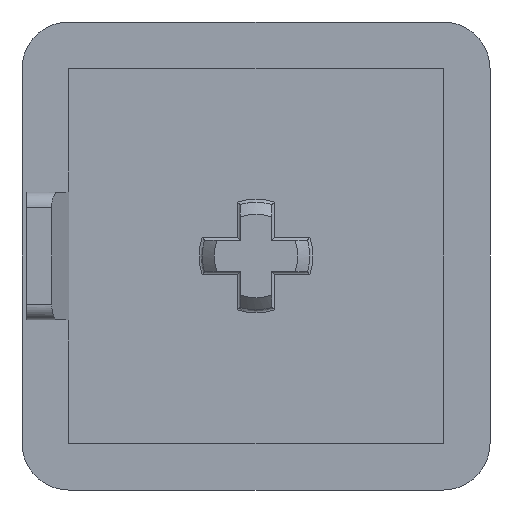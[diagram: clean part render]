
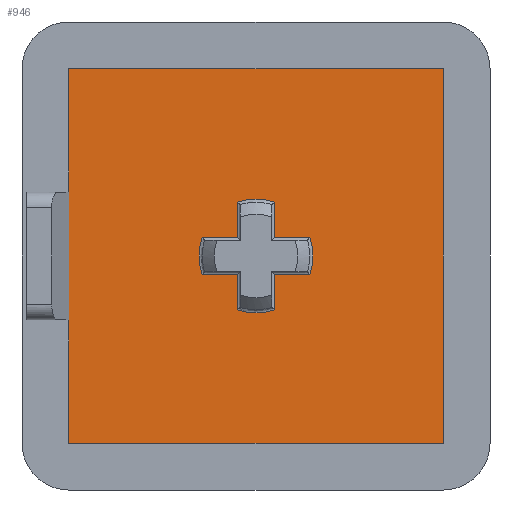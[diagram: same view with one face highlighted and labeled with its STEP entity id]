
A CAD part, front view. The second image highlights one B-rep face of the part: STEP entity #946.
In plain terms, the highlighted planar face has unit normal (0, -1, 0).
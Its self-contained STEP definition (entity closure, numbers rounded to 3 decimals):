
#70=CIRCLE('',#1035,3.65);
#71=CIRCLE('',#1036,3.65);
#72=CIRCLE('',#1037,3.65);
#73=CIRCLE('',#1038,3.65);
#208=ORIENTED_EDGE('',*,*,#441,.T.);
#209=ORIENTED_EDGE('',*,*,#442,.T.);
#210=ORIENTED_EDGE('',*,*,#443,.T.);
#211=ORIENTED_EDGE('',*,*,#444,.T.);
#212=ORIENTED_EDGE('',*,*,#445,.T.);
#213=ORIENTED_EDGE('',*,*,#446,.T.);
#214=ORIENTED_EDGE('',*,*,#447,.T.);
#215=ORIENTED_EDGE('',*,*,#448,.T.);
#216=ORIENTED_EDGE('',*,*,#449,.T.);
#217=ORIENTED_EDGE('',*,*,#450,.T.);
#218=ORIENTED_EDGE('',*,*,#451,.T.);
#219=ORIENTED_EDGE('',*,*,#452,.T.);
#220=ORIENTED_EDGE('',*,*,#433,.F.);
#221=ORIENTED_EDGE('',*,*,#440,.F.);
#222=ORIENTED_EDGE('',*,*,#438,.F.);
#223=ORIENTED_EDGE('',*,*,#436,.F.);
#433=EDGE_CURVE('',#555,#556,#640,.T.);
#436=EDGE_CURVE('',#556,#557,#643,.T.);
#438=EDGE_CURVE('',#557,#558,#645,.T.);
#440=EDGE_CURVE('',#558,#555,#647,.T.);
#441=EDGE_CURVE('',#559,#560,#648,.T.);
#442=EDGE_CURVE('',#560,#561,#70,.T.);
#443=EDGE_CURVE('',#561,#562,#649,.T.);
#444=EDGE_CURVE('',#562,#563,#650,.T.);
#445=EDGE_CURVE('',#563,#564,#71,.T.);
#446=EDGE_CURVE('',#564,#565,#651,.T.);
#447=EDGE_CURVE('',#565,#566,#652,.T.);
#448=EDGE_CURVE('',#566,#567,#72,.T.);
#449=EDGE_CURVE('',#567,#568,#653,.T.);
#450=EDGE_CURVE('',#568,#569,#654,.T.);
#451=EDGE_CURVE('',#569,#570,#73,.T.);
#452=EDGE_CURVE('',#570,#559,#655,.T.);
#555=VERTEX_POINT('',#1471);
#556=VERTEX_POINT('',#1473);
#557=VERTEX_POINT('',#1478);
#558=VERTEX_POINT('',#1482);
#559=VERTEX_POINT('',#1488);
#560=VERTEX_POINT('',#1489);
#561=VERTEX_POINT('',#1491);
#562=VERTEX_POINT('',#1493);
#563=VERTEX_POINT('',#1495);
#564=VERTEX_POINT('',#1497);
#565=VERTEX_POINT('',#1499);
#566=VERTEX_POINT('',#1501);
#567=VERTEX_POINT('',#1503);
#568=VERTEX_POINT('',#1505);
#569=VERTEX_POINT('',#1507);
#570=VERTEX_POINT('',#1509);
#640=LINE('',#1472,#723);
#643=LINE('',#1477,#726);
#645=LINE('',#1481,#728);
#647=LINE('',#1485,#730);
#648=LINE('',#1487,#731);
#649=LINE('',#1492,#732);
#650=LINE('',#1494,#733);
#651=LINE('',#1498,#734);
#652=LINE('',#1500,#735);
#653=LINE('',#1504,#736);
#654=LINE('',#1506,#737);
#655=LINE('',#1510,#738);
#723=VECTOR('',#1196,1000.);
#726=VECTOR('',#1201,1000.);
#728=VECTOR('',#1205,1000.);
#730=VECTOR('',#1209,1000.);
#731=VECTOR('',#1212,1000.);
#732=VECTOR('',#1215,1000.);
#733=VECTOR('',#1216,1000.);
#734=VECTOR('',#1219,1000.);
#735=VECTOR('',#1220,1000.);
#736=VECTOR('',#1223,1000.);
#737=VECTOR('',#1224,1000.);
#738=VECTOR('',#1227,1000.);
#800=EDGE_LOOP('',(#208,#209,#210,#211,#212,#213,#214,#215,#216,#217,#218,
#219));
#801=EDGE_LOOP('',(#220,#221,#222,#223));
#861=FACE_BOUND('',#800,.T.);
#862=FACE_BOUND('',#801,.T.);
#909=PLANE('',#1034);
#946=ADVANCED_FACE('',(#861,#862),#909,.F.);
#1034=AXIS2_PLACEMENT_3D('',#1486,#1210,#1211);
#1035=AXIS2_PLACEMENT_3D('',#1490,#1213,#1214);
#1036=AXIS2_PLACEMENT_3D('',#1496,#1217,#1218);
#1037=AXIS2_PLACEMENT_3D('',#1502,#1221,#1222);
#1038=AXIS2_PLACEMENT_3D('',#1508,#1225,#1226);
#1196=DIRECTION('',(0.,0.,1.));
#1201=DIRECTION('',(1.,0.,0.));
#1205=DIRECTION('',(0.,0.,-1.));
#1209=DIRECTION('',(-1.,0.,0.));
#1210=DIRECTION('',(0.,1.,0.));
#1211=DIRECTION('',(0.,0.,1.));
#1212=DIRECTION('',(-1.,0.,0.));
#1213=DIRECTION('',(0.,1.,0.));
#1214=DIRECTION('',(0.,0.,1.));
#1215=DIRECTION('',(1.,0.,0.));
#1216=DIRECTION('',(0.,0.,1.));
#1217=DIRECTION('',(0.,1.,0.));
#1218=DIRECTION('',(0.,0.,1.));
#1219=DIRECTION('',(0.,0.,-1.));
#1220=DIRECTION('',(1.,0.,0.));
#1221=DIRECTION('',(0.,1.,0.));
#1222=DIRECTION('',(0.,0.,1.));
#1223=DIRECTION('',(-1.,0.,0.));
#1224=DIRECTION('',(0.,0.,-1.));
#1225=DIRECTION('',(0.,1.,0.));
#1226=DIRECTION('',(0.,0.,1.));
#1227=DIRECTION('',(0.,0.,1.));
#1471=CARTESIAN_POINT('',(-12.,-3.,-12.));
#1472=CARTESIAN_POINT('',(-12.,-3.,-12.));
#1473=CARTESIAN_POINT('',(-12.,-3.,12.));
#1477=CARTESIAN_POINT('',(-12.,-3.,12.));
#1478=CARTESIAN_POINT('',(12.,-3.,12.));
#1481=CARTESIAN_POINT('',(12.,-3.,12.));
#1482=CARTESIAN_POINT('',(12.,-3.,-12.));
#1485=CARTESIAN_POINT('',(12.,-3.,-12.));
#1486=CARTESIAN_POINT('',(0.,-3.,0.));
#1487=CARTESIAN_POINT('',(0.,-3.,-1.2));
#1488=CARTESIAN_POINT('',(-1.2,-3.,-1.2));
#1489=CARTESIAN_POINT('',(-3.447,-3.,-1.2));
#1490=CARTESIAN_POINT('',(0.,-3.,0.));
#1491=CARTESIAN_POINT('',(-3.447,-3.,1.2));
#1492=CARTESIAN_POINT('',(0.,-3.,1.2));
#1493=CARTESIAN_POINT('',(-1.2,-3.,1.2));
#1494=CARTESIAN_POINT('',(-1.2,-3.,0.));
#1495=CARTESIAN_POINT('',(-1.2,-3.,3.447));
#1496=CARTESIAN_POINT('',(0.,-3.,0.));
#1497=CARTESIAN_POINT('',(1.2,-3.,3.447));
#1498=CARTESIAN_POINT('',(1.2,-3.,0.));
#1499=CARTESIAN_POINT('',(1.2,-3.,1.2));
#1500=CARTESIAN_POINT('',(0.,-3.,1.2));
#1501=CARTESIAN_POINT('',(3.447,-3.,1.2));
#1502=CARTESIAN_POINT('',(0.,-3.,0.));
#1503=CARTESIAN_POINT('',(3.447,-3.,-1.2));
#1504=CARTESIAN_POINT('',(0.,-3.,-1.2));
#1505=CARTESIAN_POINT('',(1.2,-3.,-1.2));
#1506=CARTESIAN_POINT('',(1.2,-3.,0.));
#1507=CARTESIAN_POINT('',(1.2,-3.,-3.447));
#1508=CARTESIAN_POINT('',(0.,-3.,0.));
#1509=CARTESIAN_POINT('',(-1.2,-3.,-3.447));
#1510=CARTESIAN_POINT('',(-1.2,-3.,0.));
